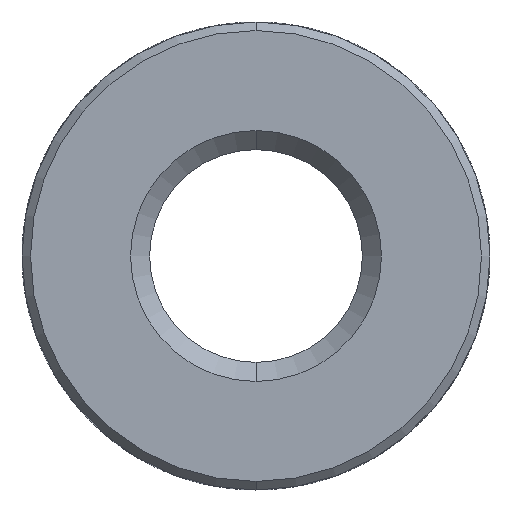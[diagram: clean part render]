
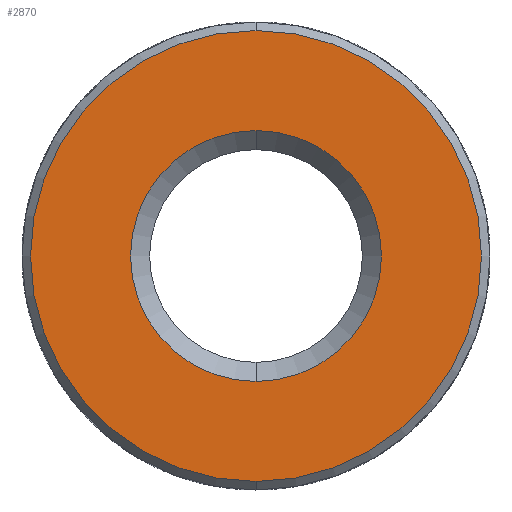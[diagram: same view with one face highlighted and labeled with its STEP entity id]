
A CAD part, front view. The second image highlights one B-rep face of the part: STEP entity #2870.
In plain terms, the highlighted planar face has unit normal (0, -1, 0).
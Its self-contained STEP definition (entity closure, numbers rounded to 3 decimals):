
#52 = AXIS2_PLACEMENT_3D ( 'NONE', #1972, #445, #1676 ) ;
#57 = VERTEX_POINT ( 'NONE', #1346 ) ;
#92 = VERTEX_POINT ( 'NONE', #2831 ) ;
#222 = EDGE_LOOP ( 'NONE', ( #3180, #2196 ) ) ;
#223 = CIRCLE ( 'NONE', #52, 1.475 ) ;
#264 = CIRCLE ( 'NONE', #2143, 2.65 ) ;
#445 = DIRECTION ( 'NONE',  ( 0., 1., 0. ) ) ;
#448 = DIRECTION ( 'NONE',  ( 0., 1., 0. ) ) ;
#485 = AXIS2_PLACEMENT_3D ( 'NONE', #1951, #448, #761 ) ;
#564 = ORIENTED_EDGE ( 'NONE', *, *, #3895, .T. ) ;
#746 = CARTESIAN_POINT ( 'NONE',  ( 0., -4.1, 2.75 ) ) ;
#761 = DIRECTION ( 'NONE',  ( 0., 0., -1. ) ) ;
#783 = AXIS2_PLACEMENT_3D ( 'NONE', #980, #3135, #1257 ) ;
#850 = CIRCLE ( 'NONE', #783, 2.65 ) ;
#980 = CARTESIAN_POINT ( 'NONE',  ( 0., -4.1, 0. ) ) ;
#1035 = PLANE ( 'NONE',  #1882 ) ;
#1048 = DIRECTION ( 'NONE',  ( 0., 0., -1. ) ) ;
#1257 = DIRECTION ( 'NONE',  ( 0., 0., -1. ) ) ;
#1346 = CARTESIAN_POINT ( 'NONE',  ( 0., -4.1, 2.65 ) ) ;
#1653 = DIRECTION ( 'NONE',  ( 0., -1., 0. ) ) ;
#1676 = DIRECTION ( 'NONE',  ( 0., 0., -1. ) ) ;
#1690 = CIRCLE ( 'NONE', #485, 1.475 ) ;
#1784 = CARTESIAN_POINT ( 'NONE',  ( 0., -4.1, 0. ) ) ;
#1882 = AXIS2_PLACEMENT_3D ( 'NONE', #746, #1653, #1048 ) ;
#1932 = CARTESIAN_POINT ( 'NONE',  ( 0., -4.1, -1.475 ) ) ;
#1951 = CARTESIAN_POINT ( 'NONE',  ( 0., -4.1, 0. ) ) ;
#1972 = CARTESIAN_POINT ( 'NONE',  ( 0., -4.1, 0. ) ) ;
#1993 = EDGE_CURVE ( 'NONE', #92, #57, #850, .T. ) ;
#2143 = AXIS2_PLACEMENT_3D ( 'NONE', #1784, #3623, #3929 ) ;
#2196 = ORIENTED_EDGE ( 'NONE', *, *, #1993, .T. ) ;
#2337 = EDGE_LOOP ( 'NONE', ( #3244, #564 ) ) ;
#2831 = CARTESIAN_POINT ( 'NONE',  ( 0., -4.1, -2.65 ) ) ;
#2870 = ADVANCED_FACE ( 'NONE', ( #3181, #3230 ), #1035, .T. ) ;
#2926 = CARTESIAN_POINT ( 'NONE',  ( 0., -4.1, 1.475 ) ) ;
#3135 = DIRECTION ( 'NONE',  ( 0., -1., 0. ) ) ;
#3180 = ORIENTED_EDGE ( 'NONE', *, *, #3654, .T. ) ;
#3181 = FACE_OUTER_BOUND ( 'NONE', #222, .T. ) ;
#3230 = FACE_BOUND ( 'NONE', #2337, .T. ) ;
#3244 = ORIENTED_EDGE ( 'NONE', *, *, #3304, .T. ) ;
#3304 = EDGE_CURVE ( 'NONE', #3932, #3938, #223, .T. ) ;
#3623 = DIRECTION ( 'NONE',  ( 0., -1., 0. ) ) ;
#3654 = EDGE_CURVE ( 'NONE', #57, #92, #264, .T. ) ;
#3895 = EDGE_CURVE ( 'NONE', #3938, #3932, #1690, .T. ) ;
#3929 = DIRECTION ( 'NONE',  ( 0., 0., -1. ) ) ;
#3932 = VERTEX_POINT ( 'NONE', #1932 ) ;
#3938 = VERTEX_POINT ( 'NONE', #2926 ) ;
